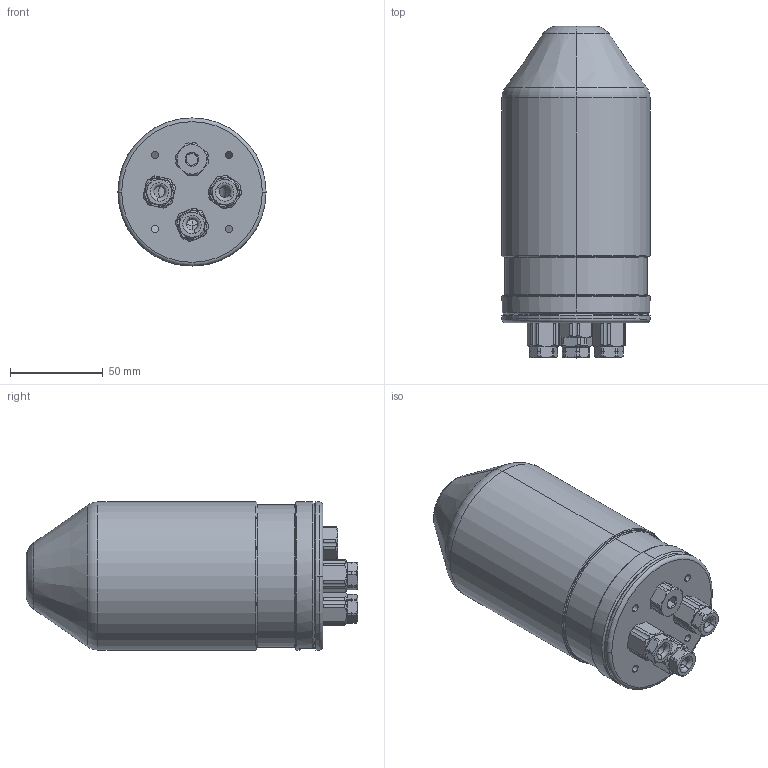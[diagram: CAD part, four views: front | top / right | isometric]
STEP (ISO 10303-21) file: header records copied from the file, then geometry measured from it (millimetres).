
FILE_DESCRIPTION (( 'STEP AP214' ), '1' );
FILE_NAME ('RC Assembly.STEP', '2025-12-04T23:36:41', ( '' ), ( '' ), 'SwSTEP 2.0', 'SolidWorks 2024', '' );
FILE_SCHEMA (( 'AUTOMOTIVE_DESIGN' ));
Length unit declared in the file: millimetre
Products named in the file (1): RC Assembly
Bounding box: 80 x 179.38 x 80 mm (x, y, z)
Surface area: 54602.1 mm2 (no closed solid volume)
Topology: 0 solids, 9 shells, 292 faces, 906 edges, 616 vertices
Faces by surface type: cylinder 123, plane 72, cone 65, torus 30, bspline 2
Entity records: 14215 total; most frequent: CARTESIAN_POINT 3289, DIRECTION 1599, ORIENTED_EDGE 1522, EDGE_CURVE 906, AXIS2_PLACEMENT_3D 662, VERTEX_POINT 616, CIRCLE 371, EDGE_LOOP 311
